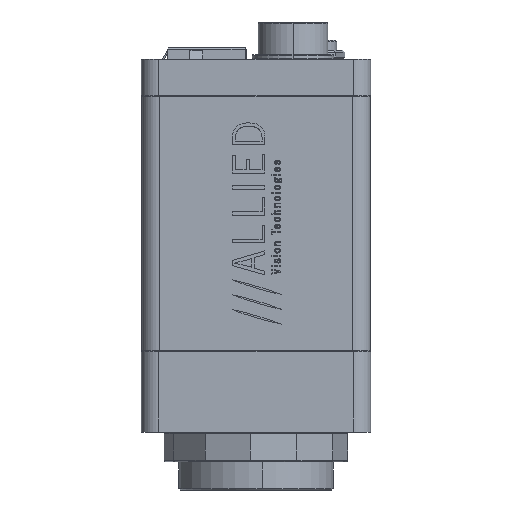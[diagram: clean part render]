
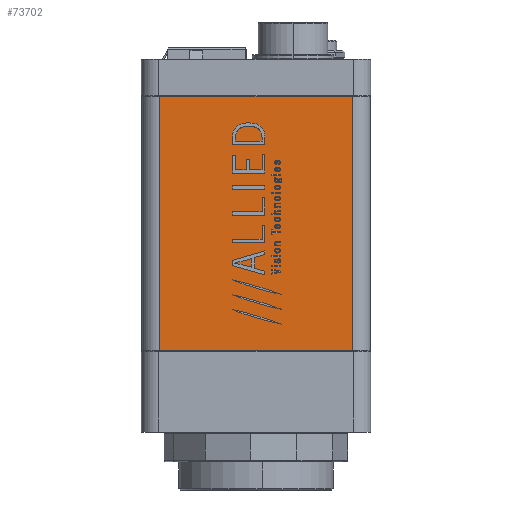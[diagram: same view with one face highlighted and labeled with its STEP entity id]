
A CAD part, left-side view. The second image highlights one B-rep face of the part: STEP entity #73702.
In plain terms, the highlighted planar face has unit normal (-1, 0, 0).
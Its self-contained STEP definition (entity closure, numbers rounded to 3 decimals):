
#1480 = LINE ( 'NONE', #128354, #43462 ) ;
#13910 = VERTEX_POINT ( 'NONE', #113207 ) ;
#18403 = EDGE_CURVE ( 'NONE', #186560, #128860, #124722, .T. ) ;
#22633 = EDGE_CURVE ( 'NONE', #13910, #43023, #29646, .T. ) ;
#29646 = LINE ( 'NONE', #176727, #66539 ) ;
#31437 = ORIENTED_EDGE ( 'NONE', *, *, #31839, .F. ) ;
#31516 = EDGE_CURVE ( 'NONE', #186560, #13910, #1480, .T. ) ;
#31839 = EDGE_CURVE ( 'NONE', #43023, #128860, #45684, .T. ) ;
#35694 = AXIS2_PLACEMENT_3D ( 'NONE', #64812, #64754, #64124 ) ;
#43023 = VERTEX_POINT ( 'NONE', #138966 ) ;
#43411 = ORIENTED_EDGE ( 'NONE', *, *, #22633, .F. ) ;
#43462 = VECTOR ( 'NONE', #128598, 1000. ) ;
#45684 = LINE ( 'NONE', #88881, #87478 ) ;
#45937 = CARTESIAN_POINT ( 'NONE',  ( -25.714, -16.558, 43.65 ) ) ;
#48274 = EDGE_LOOP ( 'NONE', ( #43411, #119323, #70490, #31437 ) ) ;
#64124 = DIRECTION ( 'NONE',  ( 0., 0., 1. ) ) ;
#64754 = DIRECTION ( 'NONE',  ( -1., 0., 0. ) ) ;
#64812 = CARTESIAN_POINT ( 'NONE',  ( -25.714, 16.558, 108.336 ) ) ;
#66539 = VECTOR ( 'NONE', #176490, 1000. ) ;
#67025 = PLANE ( 'NONE',  #35694 ) ;
#70490 = ORIENTED_EDGE ( 'NONE', *, *, #18403, .T. ) ;
#73702 = ADVANCED_FACE ( 'NONE', ( #125858 ), #67025, .T. ) ;
#87478 = VECTOR ( 'NONE', #92590, 1000. ) ;
#87711 = CARTESIAN_POINT ( 'NONE',  ( -25.714, -16.558, 108.336 ) ) ;
#88881 = CARTESIAN_POINT ( 'NONE',  ( -25.714, 16.558, 43.65 ) ) ;
#88926 = CARTESIAN_POINT ( 'NONE',  ( -25.714, -16.558, 0. ) ) ;
#89870 = DIRECTION ( 'NONE',  ( 0., 0., 1. ) ) ;
#92590 = DIRECTION ( 'NONE',  ( 0., -1., 0. ) ) ;
#113207 = CARTESIAN_POINT ( 'NONE',  ( -25.714, 16.558, 0. ) ) ;
#119323 = ORIENTED_EDGE ( 'NONE', *, *, #31516, .F. ) ;
#119728 = VECTOR ( 'NONE', #89870, 1000. ) ;
#124722 = LINE ( 'NONE', #87711, #119728 ) ;
#125858 = FACE_OUTER_BOUND ( 'NONE', #48274, .T. ) ;
#128354 = CARTESIAN_POINT ( 'NONE',  ( -25.714, -16.558, 0. ) ) ;
#128598 = DIRECTION ( 'NONE',  ( 0., 1., 0. ) ) ;
#128860 = VERTEX_POINT ( 'NONE', #45937 ) ;
#138966 = CARTESIAN_POINT ( 'NONE',  ( -25.714, 16.558, 43.65 ) ) ;
#176490 = DIRECTION ( 'NONE',  ( 0., 0., 1. ) ) ;
#176727 = CARTESIAN_POINT ( 'NONE',  ( -25.714, 16.558, 108.336 ) ) ;
#186560 = VERTEX_POINT ( 'NONE', #88926 ) ;
